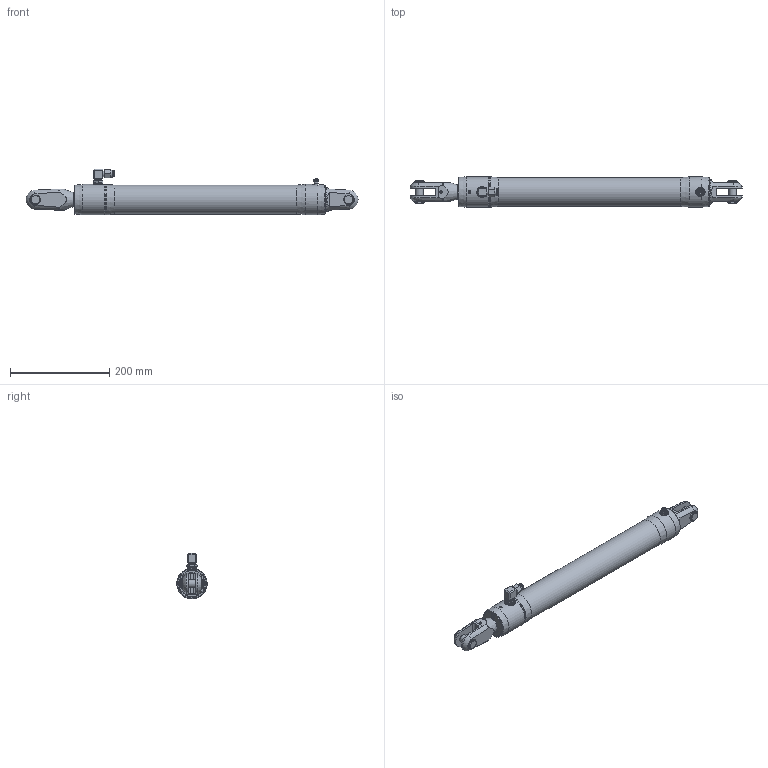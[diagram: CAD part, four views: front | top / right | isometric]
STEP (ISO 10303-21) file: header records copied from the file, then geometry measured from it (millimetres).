
FILE_DESCRIPTION(/* description */ (''),/* implementation_level */ '2;1');
FILE_NAME(/* name */ 'Q:\AA BRAND HYDRAULICS\HYDRAULICS FAMILY DIRECTORY\HYDRAULICS\CYLINDERS\RAMS\ALUMINIUM - STANDARD SINGLE ACTING (-0006 To -0260)\RSA-0017-S0375-NP-71\RSA-0017-S0375-NP-71 (Closed).stp',/* time_stamp */ '2017-11-30T10:28:17+00:00',/* author */ ('Lorena'),/* organization */ (''),/* preprocessor_version */ 'ST-DEVELOPER v16.13',/* originating_system */ 'Autodesk Inventor 2018',/* authorisation */ '');
FILE_SCHEMA (('AUTOMOTIVE_DESIGN { 1 0 10303 214 3 1 1 }'));
Length unit declared in the file: millimetre
Products named in the file (1): RSA-0017-S0375-NP-71 (Closed)
Bounding box: 670.65 x 61.4 x 92.2 mm (x, y, z)
Volume: 1556488.9 mm3; surface area: 136799.3 mm2
Topology: 1 solids, 4 shells, 1605 faces, 4249 edges, 2801 vertices
Faces by surface type: plane 886, bspline 572, cylinder 80, cone 58, torus 5, sphere 4
Full cylindrical faces by diameter (mm): 4 x1, 4.4 x1, 5 x1, 5.1 x1, 6 x2, 6.6 x2, 7 x1, 9 x1, 10 x2, 11.11 x1, 11.157 x1, 11.8 x1, 12 x3, 12.157 x1, 13 x1, 13.157 x2, 14.5 x2, 15.88 x2, 18 x1, 18.3 x2, 19.85 x2, 34 x1, 58.4 x1, 61.4 x4
Entity records: 55942 total; most frequent: CARTESIAN_POINT 18938, ORIENTED_EDGE 8250, DIRECTION 5246, EDGE_CURVE 4125, VERTEX_POINT 2764, LINE 2652, VECTOR 2652, EDGE_LOOP 1844
